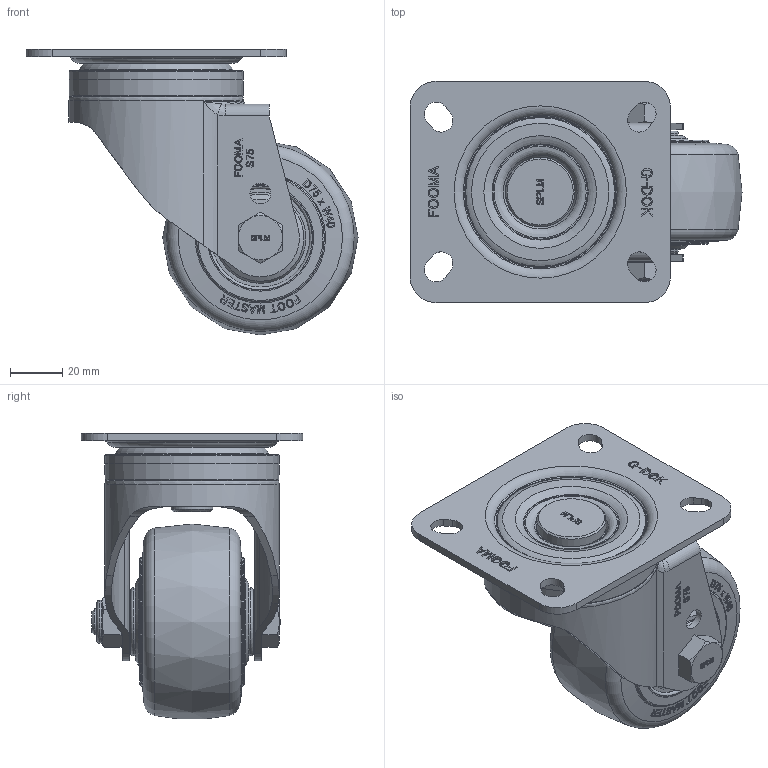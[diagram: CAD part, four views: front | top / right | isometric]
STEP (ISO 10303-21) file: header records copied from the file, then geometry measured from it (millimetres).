
FILE_DESCRIPTION(/* description */ (''),/* implementation_level */ '2;1');
FILE_NAME(/* name */ '\\192.168.10.38\지덕공유\1.기술연구소\2.연구개발 진행중\98.스테인레스캐스터 개발건_2023.10.26\제품설계\3D\홈페이지용\SPLM-75-ASF-HRD-PEU.stp',/* time_stamp */ '2025-02-20T16:22:18+09:00',/* author */ ('admin'),/* organization */ ('지덕산업'),/* preprocessor_version */ 'ST-DEVELOPER v18.1',/* originating_system */ 'Autodesk Inventor 2021',/* authorisation */ '');
FILE_SCHEMA (('CONFIG_CONTROL_DESIGN'));
Length unit declared in the file: millimetre
Products named in the file (1): SPLM-75-ASF-HRD-PEU
Bounding box: 127.5 x 85 x 109.83 mm (x, y, z)
Volume: 276101.9 mm3; surface area: 62094.4 mm2
Topology: 1 solids, 1 shells, 1240 faces, 3337 edges, 2201 vertices
Faces by surface type: plane 580, bspline 424, cylinder 102, cone 98, torus 36
Full cylindrical faces by diameter (mm): 8 x2, 10 x1, 11 x1, 14.8 x2, 16 x2, 16.5 x1, 26.6 x1, 30 x1, 40.105 x1, 40.971 x1, 54 x1, 67 x1
Entity records: 41921 total; most frequent: CARTESIAN_POINT 14943, ORIENTED_EDGE 6666, DIRECTION 3914, EDGE_CURVE 3333, VERTEX_POINT 2201, LINE 1584, VECTOR 1584, EDGE_LOOP 1360
